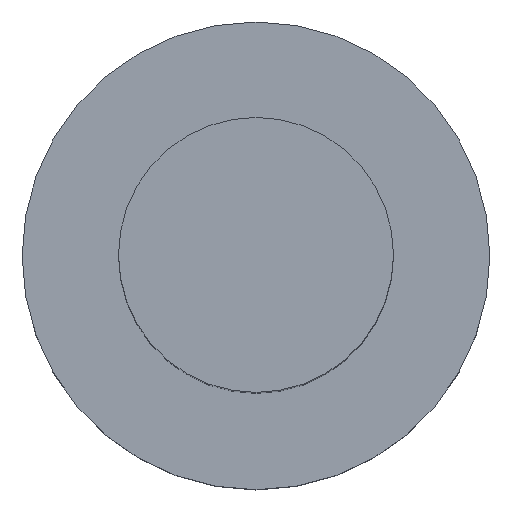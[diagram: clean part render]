
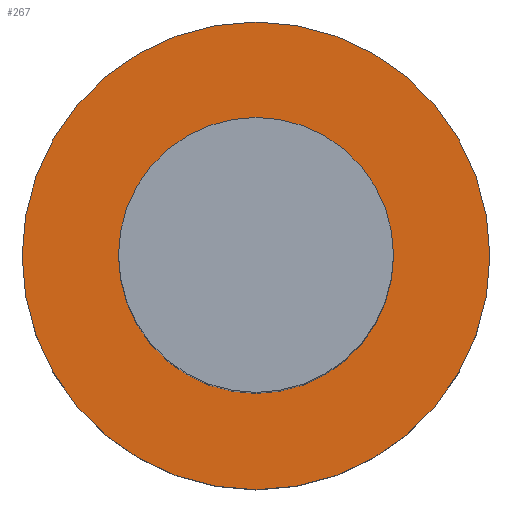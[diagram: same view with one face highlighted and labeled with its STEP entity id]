
A CAD part, top view. The second image highlights one B-rep face of the part: STEP entity #267.
In plain terms, the highlighted planar face has unit normal (0, 0, 1).
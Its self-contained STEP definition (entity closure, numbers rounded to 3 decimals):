
#24 = VERTEX_POINT('',#25);
#25 = CARTESIAN_POINT('',(5.4,0.,-8.2));
#32 = CYLINDRICAL_SURFACE('',#33,5.4);
#33 = AXIS2_PLACEMENT_3D('',#34,#35,#36);
#34 = CARTESIAN_POINT('',(0.,0.,-11.4));
#35 = DIRECTION('',(-0.,-0.,-1.));
#36 = DIRECTION('',(1.,0.,0.));
#51 = EDGE_CURVE('',#24,#24,#52,.T.);
#52 = SURFACE_CURVE('',#53,(#58,#65),.PCURVE_S1.);
#53 = CIRCLE('',#54,5.4);
#54 = AXIS2_PLACEMENT_3D('',#55,#56,#57);
#55 = CARTESIAN_POINT('',(0.,0.,-8.2));
#56 = DIRECTION('',(0.,0.,1.));
#57 = DIRECTION('',(1.,0.,0.));
#58 = PCURVE('',#32,#59);
#59 = DEFINITIONAL_REPRESENTATION('',(#60),#64);
#60 = LINE('',#61,#62);
#61 = CARTESIAN_POINT('',(-0.,-3.2));
#62 = VECTOR('',#63,1.);
#63 = DIRECTION('',(-1.,0.));
#64 = ( GEOMETRIC_REPRESENTATION_CONTEXT(2) 
PARAMETRIC_REPRESENTATION_CONTEXT() REPRESENTATION_CONTEXT('2D SPACE',''
  ) );
#65 = PCURVE('',#66,#71);
#66 = PLANE('',#67);
#67 = AXIS2_PLACEMENT_3D('',#68,#69,#70);
#68 = CARTESIAN_POINT('',(0.,0.,-8.2));
#69 = DIRECTION('',(0.,0.,1.));
#70 = DIRECTION('',(1.,0.,-0.));
#71 = DEFINITIONAL_REPRESENTATION('',(#72),#76);
#72 = CIRCLE('',#73,5.4);
#73 = AXIS2_PLACEMENT_2D('',#74,#75);
#74 = CARTESIAN_POINT('',(0.,0.));
#75 = DIRECTION('',(1.,0.));
#76 = ( GEOMETRIC_REPRESENTATION_CONTEXT(2) 
PARAMETRIC_REPRESENTATION_CONTEXT() REPRESENTATION_CONTEXT('2D SPACE',''
  ) );
#267 = ADVANCED_FACE('',(#268,#271),#66,.T.);
#268 = FACE_BOUND('',#269,.T.);
#269 = EDGE_LOOP('',(#270));
#270 = ORIENTED_EDGE('',*,*,#51,.T.);
#271 = FACE_BOUND('',#272,.T.);
#272 = EDGE_LOOP('',(#273));
#273 = ORIENTED_EDGE('',*,*,#274,.F.);
#274 = EDGE_CURVE('',#275,#275,#277,.T.);
#275 = VERTEX_POINT('',#276);
#276 = CARTESIAN_POINT('',(3.175,0.,-8.2));
#277 = SURFACE_CURVE('',#278,(#283,#290),.PCURVE_S1.);
#278 = CIRCLE('',#279,3.175);
#279 = AXIS2_PLACEMENT_3D('',#280,#281,#282);
#280 = CARTESIAN_POINT('',(0.,0.,-8.2));
#281 = DIRECTION('',(0.,0.,1.));
#282 = DIRECTION('',(1.,0.,0.));
#283 = PCURVE('',#66,#284);
#284 = DEFINITIONAL_REPRESENTATION('',(#285),#289);
#285 = CIRCLE('',#286,3.175);
#286 = AXIS2_PLACEMENT_2D('',#287,#288);
#287 = CARTESIAN_POINT('',(0.,0.));
#288 = DIRECTION('',(1.,0.));
#289 = ( GEOMETRIC_REPRESENTATION_CONTEXT(2) 
PARAMETRIC_REPRESENTATION_CONTEXT() REPRESENTATION_CONTEXT('2D SPACE',''
  ) );
#290 = PCURVE('',#291,#296);
#291 = CYLINDRICAL_SURFACE('',#292,3.175);
#292 = AXIS2_PLACEMENT_3D('',#293,#294,#295);
#293 = CARTESIAN_POINT('',(0.,0.,-8.2));
#294 = DIRECTION('',(-0.,-0.,-1.));
#295 = DIRECTION('',(1.,0.,0.));
#296 = DEFINITIONAL_REPRESENTATION('',(#297),#301);
#297 = LINE('',#298,#299);
#298 = CARTESIAN_POINT('',(-0.,0.));
#299 = VECTOR('',#300,1.);
#300 = DIRECTION('',(-1.,0.));
#301 = ( GEOMETRIC_REPRESENTATION_CONTEXT(2) 
PARAMETRIC_REPRESENTATION_CONTEXT() REPRESENTATION_CONTEXT('2D SPACE',''
  ) );
